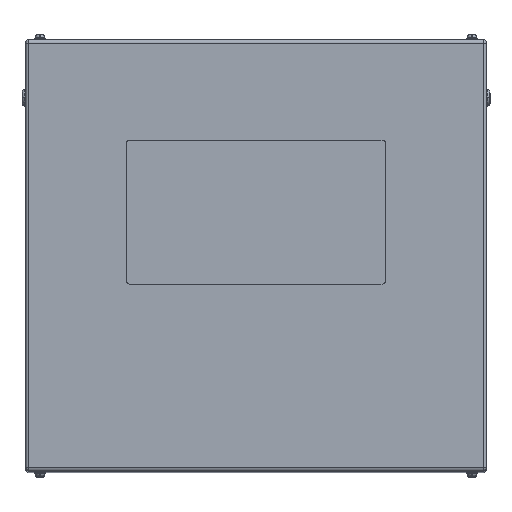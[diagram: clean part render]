
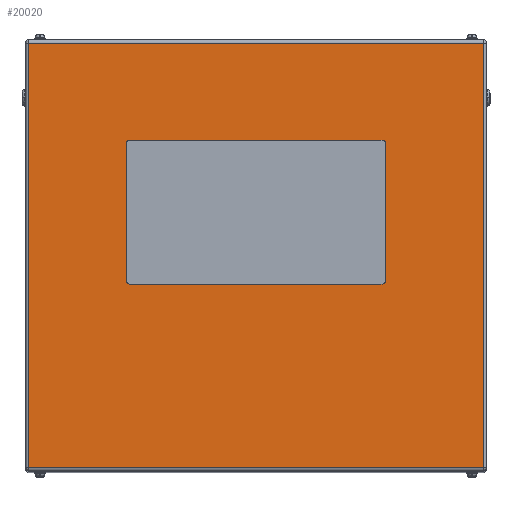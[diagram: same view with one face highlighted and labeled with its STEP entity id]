
A CAD part, top view. The second image highlights one B-rep face of the part: STEP entity #20020.
In plain terms, the highlighted planar face has unit normal (0, 0, 1).
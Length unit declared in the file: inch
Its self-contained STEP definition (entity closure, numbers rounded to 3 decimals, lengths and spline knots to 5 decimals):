
#103 = DIRECTION ( 'NONE',  ( -1., 0., 0. ) ) ;
#240 = CARTESIAN_POINT ( 'NONE',  ( 15.8, -14.734, 27. ) ) ;
#821 = CARTESIAN_POINT ( 'NONE',  ( -8.75, -2., 27. ) ) ;
#1015 = EDGE_CURVE ( 'NONE', #8387, #2974, #3120, .T. ) ;
#1046 = EDGE_CURVE ( 'NONE', #5251, #17487, #17061, .T. ) ;
#1128 = EDGE_CURVE ( 'NONE', #6402, #10660, #13468, .T. ) ;
#1614 = LINE ( 'NONE', #8148, #19454 ) ;
#1733 = CIRCLE ( 'NONE', #15108, 0.25 ) ;
#1820 = DIRECTION ( 'NONE',  ( 0., 0., -1. ) ) ;
#1830 = VERTEX_POINT ( 'NONE', #7377 ) ;
#2194 = LINE ( 'NONE', #8717, #5424 ) ;
#2347 = ORIENTED_EDGE ( 'NONE', *, *, #2441, .T. ) ;
#2441 = EDGE_CURVE ( 'NONE', #10660, #1830, #19076, .T. ) ;
#2503 = CARTESIAN_POINT ( 'NONE',  ( -8.75, -1.75, 27. ) ) ;
#2740 = ORIENTED_EDGE ( 'NONE', *, *, #3504, .F. ) ;
#2750 = LINE ( 'NONE', #10990, #20856 ) ;
#2974 = VERTEX_POINT ( 'NONE', #10704 ) ;
#3005 = CARTESIAN_POINT ( 'NONE',  ( -8.75, 8., 27. ) ) ;
#3091 = CARTESIAN_POINT ( 'NONE',  ( 8.75, -1.75, 27. ) ) ;
#3120 = LINE ( 'NONE', #13400, #11182 ) ;
#3438 = FACE_BOUND ( 'NONE', #14654, .T. ) ;
#3504 = EDGE_CURVE ( 'NONE', #6076, #8387, #12284, .T. ) ;
#3527 = DIRECTION ( 'NONE',  ( 1., 0., 0. ) ) ;
#3809 = ORIENTED_EDGE ( 'NONE', *, *, #1128, .T. ) ;
#4666 = ORIENTED_EDGE ( 'NONE', *, *, #19881, .F. ) ;
#5168 = ORIENTED_EDGE ( 'NONE', *, *, #9805, .F. ) ;
#5251 = VERTEX_POINT ( 'NONE', #3005 ) ;
#5424 = VECTOR ( 'NONE', #15290, 39.37008 ) ;
#5703 = AXIS2_PLACEMENT_3D ( 'NONE', #6530, #18292, #3527 ) ;
#5956 = VERTEX_POINT ( 'NONE', #821 ) ;
#6076 = VERTEX_POINT ( 'NONE', #20630 ) ;
#6402 = VERTEX_POINT ( 'NONE', #12996 ) ;
#6457 = DIRECTION ( 'NONE',  ( 0., 0., 1. ) ) ;
#6530 = CARTESIAN_POINT ( 'NONE',  ( -8.75, 7.75, 27. ) ) ;
#6736 = DIRECTION ( 'NONE',  ( -1., 0., 0. ) ) ;
#6798 = CARTESIAN_POINT ( 'NONE',  ( -15.8, 14.734, 27. ) ) ;
#7150 = EDGE_CURVE ( 'NONE', #11422, #6402, #2194, .T. ) ;
#7253 = VERTEX_POINT ( 'NONE', #9446 ) ;
#7257 = VERTEX_POINT ( 'NONE', #20705 ) ;
#7377 = CARTESIAN_POINT ( 'NONE',  ( 15.8, 14.734, 27. ) ) ;
#8148 = CARTESIAN_POINT ( 'NONE',  ( 16., 14.734, 27. ) ) ;
#8314 = LINE ( 'NONE', #18059, #8849 ) ;
#8387 = VERTEX_POINT ( 'NONE', #14397 ) ;
#8644 = LINE ( 'NONE', #13182, #9258 ) ;
#8717 = CARTESIAN_POINT ( 'NONE',  ( -15.8, 15., 27. ) ) ;
#8849 = VECTOR ( 'NONE', #14682, 39.37008 ) ;
#8869 = AXIS2_PLACEMENT_3D ( 'NONE', #19703, #1820, #6736 ) ;
#9114 = VECTOR ( 'NONE', #11636, 39.37008 ) ;
#9154 = EDGE_CURVE ( 'NONE', #1830, #11422, #1614, .T. ) ;
#9249 = ORIENTED_EDGE ( 'NONE', *, *, #18064, .F. ) ;
#9258 = VECTOR ( 'NONE', #16534, 39.37008 ) ;
#9446 = CARTESIAN_POINT ( 'NONE',  ( -9., -1.75, 27. ) ) ;
#9549 = CARTESIAN_POINT ( 'NONE',  ( 15.8, 15., 27. ) ) ;
#9805 = EDGE_CURVE ( 'NONE', #17487, #7253, #2750, .T. ) ;
#9843 = PLANE ( 'NONE',  #8869 ) ;
#10254 = ORIENTED_EDGE ( 'NONE', *, *, #7150, .T. ) ;
#10660 = VERTEX_POINT ( 'NONE', #18965 ) ;
#10704 = CARTESIAN_POINT ( 'NONE',  ( 9., 7.75, 27. ) ) ;
#10745 = DIRECTION ( 'NONE',  ( 0., 0., 1. ) ) ;
#10947 = DIRECTION ( 'NONE',  ( 0., 1., 0. ) ) ;
#10990 = CARTESIAN_POINT ( 'NONE',  ( -9., 7.75, 27. ) ) ;
#11008 = DIRECTION ( 'NONE',  ( 1., 0., 0. ) ) ;
#11182 = VECTOR ( 'NONE', #16443, 39.37008 ) ;
#11210 = VECTOR ( 'NONE', #10947, 39.37008 ) ;
#11422 = VERTEX_POINT ( 'NONE', #6798 ) ;
#11542 = ORIENTED_EDGE ( 'NONE', *, *, #1046, .F. ) ;
#11636 = DIRECTION ( 'NONE',  ( 1., 0., 0. ) ) ;
#11677 = FACE_OUTER_BOUND ( 'NONE', #18349, .T. ) ;
#12121 = ORIENTED_EDGE ( 'NONE', *, *, #9154, .T. ) ;
#12284 = CIRCLE ( 'NONE', #16795, 0.25 ) ;
#12702 = DIRECTION ( 'NONE',  ( 0., -1., 0. ) ) ;
#12827 = DIRECTION ( 'NONE',  ( 0., 0., 1. ) ) ;
#12996 = CARTESIAN_POINT ( 'NONE',  ( -15.8, -14.734, 27. ) ) ;
#13182 = CARTESIAN_POINT ( 'NONE',  ( -8.75, -2., 27. ) ) ;
#13400 = CARTESIAN_POINT ( 'NONE',  ( 9., 7.75, 27. ) ) ;
#13468 = LINE ( 'NONE', #240, #9114 ) ;
#14397 = CARTESIAN_POINT ( 'NONE',  ( 9., -1.75, 27. ) ) ;
#14654 = EDGE_LOOP ( 'NONE', ( #9249, #18490, #5168, #11542, #4666, #15200, #15016, #2740 ) ) ;
#14682 = DIRECTION ( 'NONE',  ( -1., 0., 0. ) ) ;
#14729 = DIRECTION ( 'NONE',  ( -1., 0., 0. ) ) ;
#15016 = ORIENTED_EDGE ( 'NONE', *, *, #1015, .F. ) ;
#15108 = AXIS2_PLACEMENT_3D ( 'NONE', #2503, #10745, #15618 ) ;
#15200 = ORIENTED_EDGE ( 'NONE', *, *, #17368, .F. ) ;
#15290 = DIRECTION ( 'NONE',  ( 0., -1., 0. ) ) ;
#15618 = DIRECTION ( 'NONE',  ( 1., 0., 0. ) ) ;
#15666 = CARTESIAN_POINT ( 'NONE',  ( -9., 7.75, 27. ) ) ;
#16443 = DIRECTION ( 'NONE',  ( 0., 1., 0. ) ) ;
#16534 = DIRECTION ( 'NONE',  ( 1., 0., 0. ) ) ;
#16795 = AXIS2_PLACEMENT_3D ( 'NONE', #3091, #12827, #11008 ) ;
#17061 = CIRCLE ( 'NONE', #5703, 0.25 ) ;
#17368 = EDGE_CURVE ( 'NONE', #2974, #7257, #20629, .T. ) ;
#17487 = VERTEX_POINT ( 'NONE', #15666 ) ;
#17702 = EDGE_CURVE ( 'NONE', #7253, #5956, #1733, .T. ) ;
#17899 = AXIS2_PLACEMENT_3D ( 'NONE', #21231, #6457, #103 ) ;
#18059 = CARTESIAN_POINT ( 'NONE',  ( -8.75, 8., 27. ) ) ;
#18064 = EDGE_CURVE ( 'NONE', #5956, #6076, #8644, .T. ) ;
#18292 = DIRECTION ( 'NONE',  ( 0., 0., 1. ) ) ;
#18349 = EDGE_LOOP ( 'NONE', ( #10254, #3809, #2347, #12121 ) ) ;
#18490 = ORIENTED_EDGE ( 'NONE', *, *, #17702, .F. ) ;
#18965 = CARTESIAN_POINT ( 'NONE',  ( 15.8, -14.734, 27. ) ) ;
#19076 = LINE ( 'NONE', #9549, #11210 ) ;
#19454 = VECTOR ( 'NONE', #14729, 39.37008 ) ;
#19703 = CARTESIAN_POINT ( 'NONE',  ( 16., 15., 27. ) ) ;
#19881 = EDGE_CURVE ( 'NONE', #7257, #5251, #8314, .T. ) ;
#20020 = ADVANCED_FACE ( 'NONE', ( #3438, #11677 ), #9843, .F. ) ;
#20629 = CIRCLE ( 'NONE', #17899, 0.25 ) ;
#20630 = CARTESIAN_POINT ( 'NONE',  ( 8.75, -2., 27. ) ) ;
#20705 = CARTESIAN_POINT ( 'NONE',  ( 8.75, 8., 27. ) ) ;
#20856 = VECTOR ( 'NONE', #12702, 39.37008 ) ;
#21231 = CARTESIAN_POINT ( 'NONE',  ( 8.75, 7.75, 27. ) ) ;
